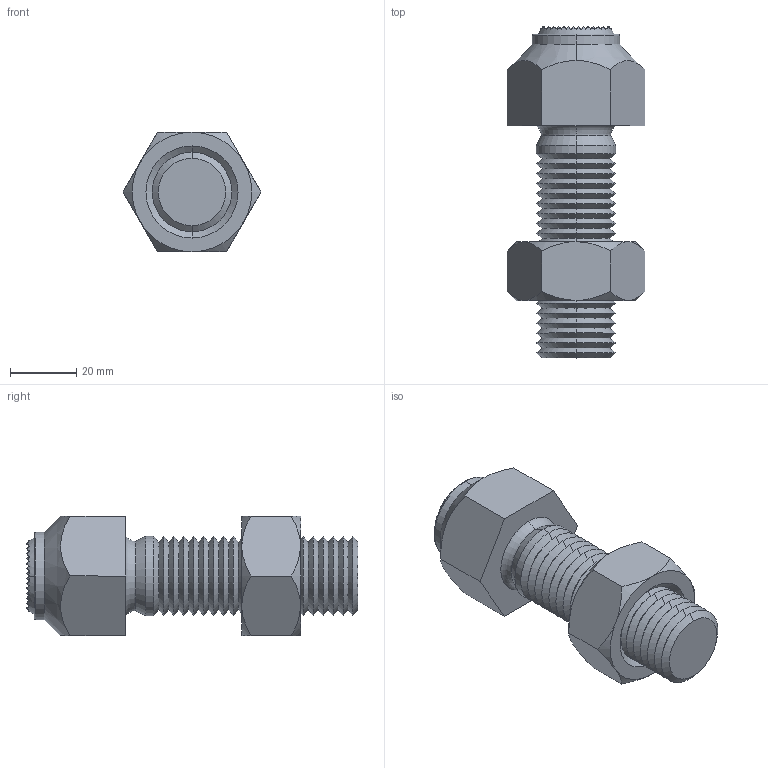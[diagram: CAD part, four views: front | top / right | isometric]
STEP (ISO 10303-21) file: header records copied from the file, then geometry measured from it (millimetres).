
FILE_DESCRIPTION (( 'STEP AP203' ), '1' );
FILE_NAME ('34120.W0336.step', '2017-03-27T09:23:26', ( 'User' ), ( '' ), 'SwSTEP 2.0', 'SolidWorks 2009', '' );
FILE_SCHEMA (( 'CONFIG_CONTROL_DESIGN' ));
Length unit declared in the file: millimetre
Products named in the file (4): Part2_34120.W0336; Part3_34120.W0336; 34120.W0336; Part1_34120.W0336
Assembly tree (3 placements, depth 2):
  34120.W0336
    Part2_34120.W0336
    Part3_34120.W0336
    Part1_34120.W0336
Bounding box: 41.57 x 100 x 36 mm (x, y, z)
Volume: 65988.1 mm3; surface area: 19946.2 mm2
Topology: 3 solids, 3 shells, 845 faces, 1466 edges, 625 vertices
Faces by surface type: plane 723, cone 102, cylinder 8, torus 8, sphere 4
Entity records: 19136 total; most frequent: DIRECTION 3430, CARTESIAN_POINT 3194, ORIENTED_EDGE 2912, EDGE_CURVE 1456, AXIS2_PLACEMENT_3D 1155, LINE 1120, VECTOR 1120, EDGE_LOOP 849
